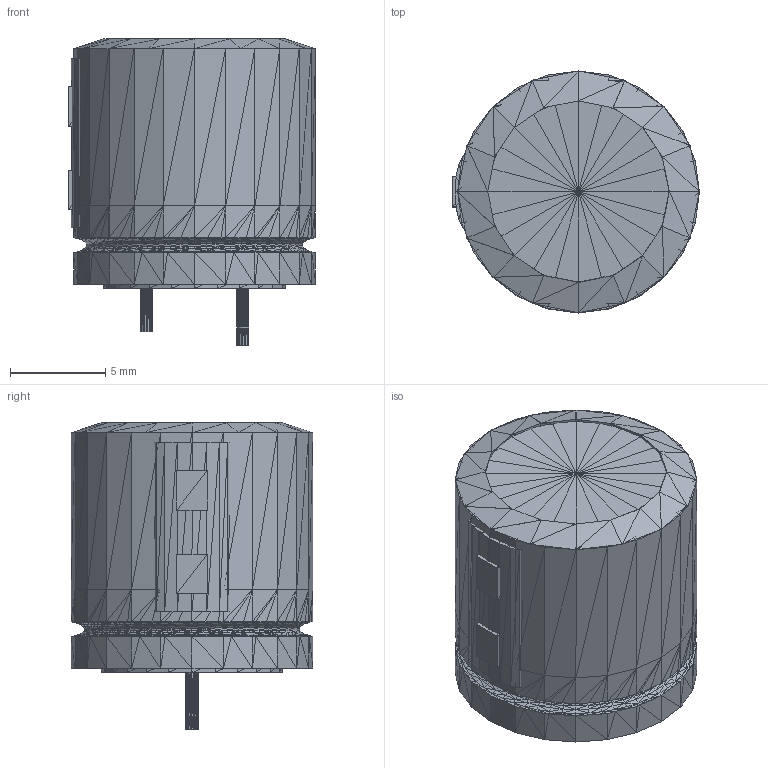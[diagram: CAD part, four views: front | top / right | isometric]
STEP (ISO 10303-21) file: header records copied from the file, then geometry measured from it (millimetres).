
FILE_DESCRIPTION(('HOOPS Exchange Step'),'2;1');
FILE_NAME('***.stp');
FILE_SCHEMA( ('AP242_MANAGED_MODEL_BASED_3D_ENGINEERING_MIM_LF {1 0 10303 442 1 1 4 }') );
Length unit declared in the file: inch
Products named in the file (11): CAPOLV500MIL_2; CAPOLV500MIL_3; CAPOLV500MIL_4; CAPOLV500MIL_5; CAPOLV500MIL_6; CAPOLV500MIL_7; CAPOLV500MIL_8; CAPOLV500MIL_9; CAPOLV500MIL_10; CAPOLV500MIL_11; CAPOLV500MIL
Assembly tree (10 placements, depth 2):
  CAPOLV500MIL
    CAPOLV500MIL_2
    CAPOLV500MIL_3
    CAPOLV500MIL_4
    CAPOLV500MIL_5
    CAPOLV500MIL_6
    CAPOLV500MIL_7
    CAPOLV500MIL_8
    CAPOLV500MIL_9
    CAPOLV500MIL_10
    CAPOLV500MIL_11
Bounding box: 12.96 x 12.7 x 16.09 mm (x, y, z)
Volume: 1670.9 mm3; surface area: 1601.6 mm2
Topology: 10 solids, 10 shells, 2004 faces, 3006 edges, 1020 vertices
Faces by surface type: plane 2004
Entity records: 39590 total; most frequent: DIRECTION 7058, CARTESIAN_POINT 6052, ORIENTED_EDGE 6012, VECTOR 3006, LINE 3006, EDGE_CURVE 3006, AXIS2_PLACEMENT_3D 2026, PLANE 2004
